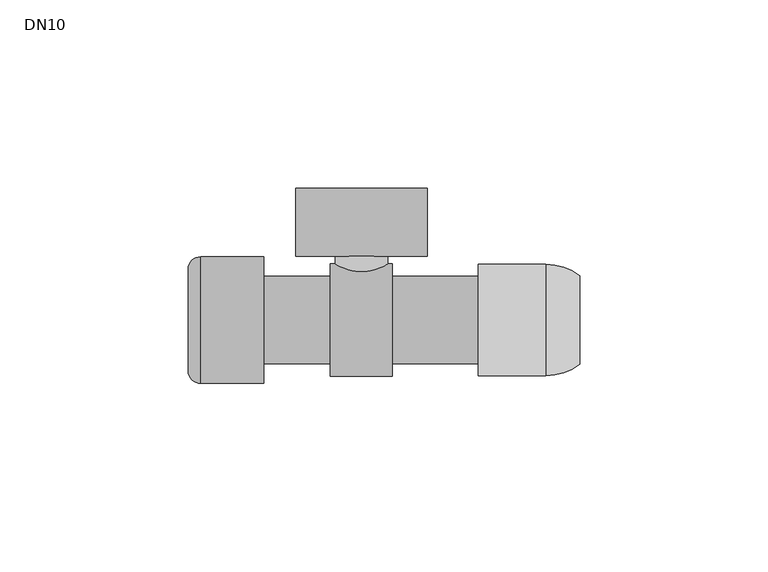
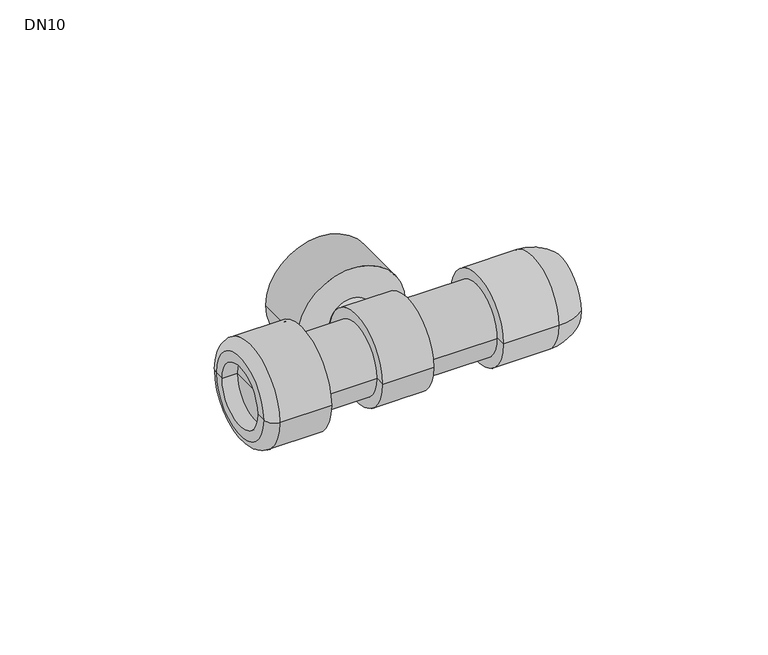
"""IFC4 building model written with IfcOpenShell, lengths in millimetres: valve geometry, Wavin_PipeAccessory_Hep2oStraightServiceValve : DN10."""

import ifcopenshell
import ifcopenshell.guid

model = None  # the IFC model being written
_history = None  # IfcOwnerHistory: only IFC2X3 demands one
_inside = {}  # id of a spatial element -> (the spatial element, [elements in it])
_under = {}  # id of a project, library or spatial element -> (it, [spatial elements below it])
_declared = {}  # id of a project -> (the project, [libraries it declares])
_typed = {}  # id of a type object -> (the type object, [elements of that type])
_made_of = {}  # id of a material, layer set ... -> (it, [elements and type objects made of it])


def new_model(schema):
    """Start an empty IFC model of exactly this schema.

    Asked for "IFC4X3", IfcOpenShell would pick the latest addendum, in which some entities
    have other attributes; the version numbers below select the first issue.
    IFC2X3 requires an IfcOwnerHistory on every rooted entity: one is made here for all.
    """
    global model, _history
    if schema == "IFC4X3":
        model = ifcopenshell.file(schema_version=(4, 3, 0, 0))
    else:
        model = ifcopenshell.file(schema=schema)
    _inside.clear()
    _under.clear()
    _declared.clear()
    _typed.clear()
    _made_of.clear()
    _history = None
    if model.schema == "IFC2X3":
        org = make("IfcOrganization", Name="unknown")
        user = make(
            "IfcPersonAndOrganization",
            ThePerson=make("IfcPerson", FamilyName="unknown"),
            TheOrganization=org,
        )
        app = make(
            "IfcApplication",
            ApplicationDeveloper=org,
            Version="unknown",
            ApplicationFullName="unknown",
            ApplicationIdentifier="unknown",
        )
        _history = make(
            "IfcOwnerHistory",
            OwningUser=user,
            OwningApplication=app,
            ChangeAction="ADDED",
            CreationDate=0,
        )
    return model


def make(cls, **values):
    """One entity of the class cls with the attributes given. An attribute that is None is left unset."""
    return model.create_entity(
        cls, **{name: value for name, value in values.items() if value is not None}
    )


def rooted(cls, **values):
    """An entity with a GlobalId (a new one), such as an element, a storey or a relation."""
    return make(cls, GlobalId=ifcopenshell.guid.new(), OwnerHistory=_history, **values)


def si_unit(unit_type, name, prefix=None):
    """IfcSIUnit, for example si_unit("LENGTHUNIT", "METRE", prefix="MILLI")."""
    return make("IfcSIUnit", UnitType=unit_type, Prefix=prefix, Name=name)


def assignment(units):
    """IfcUnitAssignment: the units of a project."""
    return None if units is None else make("IfcUnitAssignment", Units=units)


def point(xyz):
    """IfcCartesianPoint."""
    return None if xyz is None else make("IfcCartesianPoint", Coordinates=xyz)


def direction(xyz):
    """IfcDirection."""
    return None if xyz is None else make("IfcDirection", DirectionRatios=xyz)


def frame(location, z_axis=None, x_axis=None):
    """IfcAxis2Placement3D, a coordinate frame: its origin and axes. An axis left out is left unset."""
    return make(
        "IfcAxis2Placement3D",
        Location=point(location),
        Axis=direction(z_axis),
        RefDirection=direction(x_axis),
    )


def frame_2d(location, x_axis=None):
    """IfcAxis2Placement2D, a coordinate frame in the plane: its origin and x axis."""
    return make(
        "IfcAxis2Placement2D", Location=point(location), RefDirection=direction(x_axis)
    )


def origin():
    """The frame at (0, 0, 0) with its axes left unset."""
    return frame((0.0, 0.0, 0.0))


def origin_2d():
    """The frame at (0, 0) in the plane with its x axis left unset."""
    return frame_2d((0.0, 0.0))


def place(relative_to, where):
    """IfcLocalPlacement: puts the frame where relative to a parent placement (None: the world)."""
    return make(
        "IfcLocalPlacement", PlacementRelTo=relative_to, RelativePlacement=where
    )


def context(
    kind, dimensions, precision=None, world=None, true_north=None, identifier=None
):
    """IfcGeometricRepresentationContext, for example the 3D "Model" context."""
    return make(
        "IfcGeometricRepresentationContext",
        ContextIdentifier=identifier,
        ContextType=kind,
        CoordinateSpaceDimension=dimensions,
        Precision=precision,
        WorldCoordinateSystem=world,
        TrueNorth=true_north,
    )


def project(units=None, contexts=None):
    """IfcProject with its units and contexts."""
    return rooted(
        "IfcProject",
        Name="project",
        RepresentationContexts=contexts,
        UnitsInContext=assignment(units),
    )


def spatial(cls, under=None, at=None, **own):
    """A site, building, storey or space (cls), placed at a placement, below another one or the project."""
    s = rooted(cls, ObjectPlacement=at, **own)
    if under is not None:
        _under.setdefault(under.id(), (under, []))[1].append(s)
    return s


def polyline(points):
    """IfcPolyline through the points."""
    return make("IfcPolyline", Points=[point(p) for p in points])


def circle_curve(where, radius):
    """IfcCircle in the frame where."""
    return make("IfcCircle", Position=where, Radius=radius)


def ellipse_curve(where, semi_axis1, semi_axis2):
    """IfcEllipse in the frame where."""
    return make(
        "IfcEllipse", Position=where, SemiAxis1=semi_axis1, SemiAxis2=semi_axis2
    )


def trimmed(basis, trim1, trim2, sense, master):
    """IfcTrimmedCurve: the piece of a basis curve between two trims."""
    return make(
        "IfcTrimmedCurve",
        BasisCurve=basis,
        Trim1=trim1,
        Trim2=trim2,
        SenseAgreement=sense,
        MasterRepresentation=master,
    )


def segment(curve, same_sense, transition):
    """IfcCompositeCurveSegment."""
    return make(
        "IfcCompositeCurveSegment",
        Transition=transition,
        SameSense=same_sense,
        ParentCurve=curve,
    )


def composite_curve(segments, self_intersect=None):
    """IfcCompositeCurve: segments joined end to end."""
    return make("IfcCompositeCurve", Segments=segments, SelfIntersect=self_intersect)


def outline(outer, holes=None, kind="AREA"):
    """IfcArbitraryClosedProfileDef: a profile drawn as a closed curve; with holes, ...WithVoids."""
    if holes is None:
        return make("IfcArbitraryClosedProfileDef", ProfileType=kind, OuterCurve=outer)
    return make(
        "IfcArbitraryProfileDefWithVoids",
        ProfileType=kind,
        OuterCurve=outer,
        InnerCurves=holes,
    )


def extrude(swept, where, along, depth):
    """IfcExtrudedAreaSolid: the profile swept, set in the frame where, extruded along a direction by depth."""
    return make(
        "IfcExtrudedAreaSolid",
        SweptArea=swept,
        Position=where,
        ExtrudedDirection=direction(along),
        Depth=depth,
    )


def shape(context_of_items, identifier, shape_type, items):
    """IfcShapeRepresentation: the items that make up one representation, for example the "Body"."""
    return make(
        "IfcShapeRepresentation",
        ContextOfItems=context_of_items,
        RepresentationIdentifier=identifier,
        RepresentationType=shape_type,
        Items=items,
    )


def source(mapping_origin, context_of_items, identifier, shape_type, items):
    """IfcRepresentationMap: a shape defined once, which mapped items show again and again."""
    return make(
        "IfcRepresentationMap",
        MappingOrigin=mapping_origin,
        MappedRepresentation=shape(context_of_items, identifier, shape_type, items),
    )


def transform(
    local_origin,
    x_axis=None,
    y_axis=None,
    z_axis=None,
    scale=None,
    scale2=None,
    scale3=None,
    uniform=True,
):
    """IfcCartesianTransformationOperator3D, or its non-uniform kind. x_axis, y_axis, z_axis: its Axis1, 2, 3."""
    if uniform:
        return make(
            "IfcCartesianTransformationOperator3D",
            Axis1=direction(x_axis),
            Axis2=direction(y_axis),
            LocalOrigin=point(local_origin),
            Scale=scale,
            Axis3=direction(z_axis),
        )
    return make(
        "IfcCartesianTransformationOperator3DnonUniform",
        Axis1=direction(x_axis),
        Axis2=direction(y_axis),
        LocalOrigin=point(local_origin),
        Scale=scale,
        Axis3=direction(z_axis),
        Scale2=scale2,
        Scale3=scale3,
    )


def mapped(mapping_source, mapping_target):
    """IfcMappedItem: shows the shape of a source again, moved by a transform."""
    return make(
        "IfcMappedItem", MappingSource=mapping_source, MappingTarget=mapping_target
    )


def made_of(thing, what):
    """Note that an element or type object is made of a material, layer set ...; save() writes the relation."""
    if what is not None:
        _made_of.setdefault(what.id(), (what, []))[1].append(thing)
    return thing


def element(
    cls,
    number,
    at=None,
    inside=None,
    cuts=None,
    type_object=None,
    material=None,
    context=None,
    identifier="Body",
    shape_type=None,
    held_by="IfcProductDefinitionShape",
    body=None,
    shapes=None,
    **own,
):
    """One element of the class cls, such as IfcWall. Its Tag is "e" and its number.

    at: its placement. inside: the storey or other place that contains it. cuts: it is an
    opening in that element (IfcRelVoidsElement). A single representation is given by context,
    identifier, shape_type and body (its items); several are given by shapes. held_by: the class
    of the entity that holds the representations. save() writes the other relations.
    """
    e = rooted(cls, Tag="e%d" % number, ObjectPlacement=at, **own)
    if body is not None:
        shapes = [shape(context, identifier, shape_type, body)]
    if shapes is not None:
        e.Representation = make(held_by, Representations=shapes)
    if inside is not None:
        _inside.setdefault(inside.id(), (inside, []))[1].append(e)
    if cuts is not None:
        rooted(
            "IfcRelVoidsElement", RelatingBuildingElement=cuts, RelatedOpeningElement=e
        )
    if type_object is not None:
        _typed.setdefault(type_object.id(), (type_object, []))[1].append(e)
    return made_of(e, material)


def aggregate(whole, parts):
    """IfcRelAggregates: a whole, such as a stair, and the parts it consists of."""
    return rooted("IfcRelAggregates", RelatingObject=whole, RelatedObjects=parts)


def save(model, path):
    """Write the relations noted so far, then the file.

    IfcRelAggregates (storeys below a building ...), IfcRelContainedInSpatialStructure (elements
    in a storey), IfcRelDefinesByType, IfcRelAssociatesMaterial and IfcRelDeclares: one each for
    every whole, place, type object, material and project.
    """
    for whole, parts in _under.values():
        aggregate(whole, parts)
    for where, things in _inside.values():
        rooted(
            "IfcRelContainedInSpatialStructure",
            RelatedElements=things,
            RelatingStructure=where,
        )
    for kind, things in _typed.values():
        rooted("IfcRelDefinesByType", RelatedObjects=things, RelatingType=kind)
    for what, things in _made_of.values():
        rooted("IfcRelAssociatesMaterial", RelatedObjects=things, RelatingMaterial=what)
    for by, libraries in _declared.values():
        rooted("IfcRelDeclares", RelatingContext=by, RelatedDefinitions=libraries)
    model.write(path)


def plane_surface(at):
    """IfcPlane: the flat surface through the origin of the frame at, square to its z axis."""
    return make("IfcPlane", Position=at)


def cylinder_surface(at, radius):
    """IfcCylindricalSurface: all points at the distance radius from the z axis of the frame at."""
    return make("IfcCylindricalSurface", Position=at, Radius=radius)


def revolved_surface(curve, axis_point, axis_direction):
    """IfcSurfaceOfRevolution: the curve turned about the line through axis_point along axis_direction."""
    return make(
        "IfcSurfaceOfRevolution",
        SweptCurve=make("IfcArbitraryOpenProfileDef", ProfileType="CURVE", Curve=curve),
        AxisPosition=make("IfcAxis1Placement", Location=point(axis_point), Axis=direction(axis_direction)),
    )


def advanced_brep(points, edges, surfaces, faces):
    """IfcAdvancedBrep: a solid bounded by faces that lie on surfaces and meet in shared edges.

    An edge is (start, end): straight between two places in points (the first is 0);
    or (start, end, curve); or (start, end, curve, False) where it runs against its curve.
    A face is (place in surfaces, loops), or (place, loops, False) where it looks against
    its surface's normal. A loop lists edges by number (the first is 1), with a minus sign
    where the edge is run from its end to its start. The first loop is the outer one.
    """
    corners = [point(p) for p in points]
    vertices = [make("IfcVertexPoint", VertexGeometry=c) for c in corners]
    made = []
    for start, end, *more in edges:
        made.append(
            make(
                "IfcEdgeCurve",
                EdgeStart=vertices[start],
                EdgeEnd=vertices[end],
                EdgeGeometry=more[0] if more else make("IfcPolyline", Points=[corners[start], corners[end]]),
                SameSense=more[1] if len(more) > 1 else True,
            )
        )
    hull = []
    for where, loops, *sense in faces:
        bounds = []
        for j, loop in enumerate(loops):
            ring = [make("IfcOrientedEdge", EdgeElement=made[abs(k) - 1], Orientation=k > 0) for k in loop]
            bounds.append(
                make(
                    "IfcFaceOuterBound" if j == 0 else "IfcFaceBound",
                    Bound=make("IfcEdgeLoop", EdgeList=ring),
                    Orientation=True,
                )
            )
        hull.append(make("IfcAdvancedFace", Bounds=bounds, FaceSurface=surfaces[where], SameSense=sense[0] if sense else True))
    return make("IfcAdvancedBrep", Outer=make("IfcClosedShell", CfsFaces=hull))


def dn10_7873d2fb(model_context):
    return source(origin(), model_context, "Body", "SolidModel", [
        advanced_brep(
        [(31.0, 7.5, 0.0), (31.0, -7.5, 0.0), (58.0, -7.5, 0.0), (58.0, 7.5, 0.0), (31.0, 14.8, 0.0), (31.0, -14.8, 0.0), (49.0, 14.8, 0.0), (49.0, -14.8, 0.0), (58.0, 11.7490425, 0.0), (58.0, -11.7490425, 0.0)],
        [
            (0, 1, circle_curve(frame((31.0, 0.0, 0.0), z_axis=(-1.0, 0.0, 0.0), x_axis=(0.0, -1.0000000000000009, 0.0)), 7.5)),
            (1, 2),
            (2, 3, circle_curve(frame((58.0, 0.0, 0.0), z_axis=(1.0, 0.0, 0.0), x_axis=(0.0, -1.0000000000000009, 0.0)), 7.5)),
            (3, 0),
            (1, 0, circle_curve(frame((31.0, 0.0, 0.0), z_axis=(-1.0, 0.0, 0.0), x_axis=(0.0, -1.0000000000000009, 0.0)), 7.5)),
            (3, 2, circle_curve(frame((58.0, 0.0, 0.0), z_axis=(1.0, 0.0, 0.0), x_axis=(0.0, -1.0000000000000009, 0.0)), 7.5)),
            (4, 5, circle_curve(frame((31.0, 0.0, 0.0), z_axis=(-1.0, 0.0, 0.0), x_axis=(0.0, -1.0000000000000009, 0.0)), 14.8)),
            (5, 1),
            (0, 4),
            (5, 4, circle_curve(frame((31.0, 0.0, 0.0), z_axis=(-1.0, 0.0, 0.0), x_axis=(0.0, -1.0000000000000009, 0.0)), 14.8)),
            (6, 7, circle_curve(frame((49.0, 0.0, 0.0), z_axis=(-1.0, 0.0, 0.0), x_axis=(0.0, -1.0000000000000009, 0.0)), 14.8)),
            (7, 5),
            (4, 6),
            (7, 6, circle_curve(frame((49.0, 0.0, 0.0), z_axis=(-1.0, 0.0, 0.0), x_axis=(0.0, -1.0000000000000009, 0.0)), 14.8)),
            (8, 9, circle_curve(frame((58.0, 0.0, 0.0), z_axis=(-1.0, 0.0, 0.0), x_axis=(0.0, -1.0000000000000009, 0.0)), 11.7490425)),
            (9, 7, circle_curve(frame((49.0, 0.0, 0.0), z_axis=(0.0, 0.0, -1.0000000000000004), x_axis=(-1.0000000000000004, 0.0, 0.0)), 14.8)),
            (6, 8, circle_curve(frame((49.0, 0.0, 0.0), z_axis=(0.0, 0.0, -1.0000000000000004), x_axis=(-1.0000000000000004, 0.0, 0.0)), 14.8)),
            (9, 8, circle_curve(frame((58.0, 0.0, 0.0), z_axis=(-1.0, 0.0, 0.0), x_axis=(0.0, -1.0000000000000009, 0.0)), 11.7490425)),
            (2, 9),
            (8, 3),
        ],
        [
            revolved_surface(polyline([(58.00000000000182, -7.500000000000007, 0.0), (31.00000000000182, -7.500000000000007, 0.0)]), (-1969.0, 0.0, 0.0), (1.0000000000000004, 0.0, 0.0)),
            plane_surface(frame((31.0, 0.0, 0.0), z_axis=(-1.0, 0.0, 0.0), x_axis=(0.0, -1.0, 0.0))),
            cylinder_surface(frame((-1969.0, 0.0, 0.0), z_axis=(1.0000000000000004, 0.0, 0.0), x_axis=(0.0, -1.0000000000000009, 0.0)), 14.8),
            revolved_surface(trimmed(ellipse_curve(frame((49.0, 0.0, 0.0), z_axis=(0.0, 0.0, 1.0000000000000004), x_axis=(-1.0000000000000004, 0.0, 0.0)), 14.8, 14.8), [point((49.0, -14.8, 0.0))], [point((58.0, -11.7490425, 0.0))], True, "CARTESIAN"), (-1969.0, 0.0, 0.0), (1.0000000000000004, 0.0, 0.0)),
            plane_surface(frame((58.0, 0.0, 0.0), z_axis=(1.0, 0.0, 0.0), x_axis=(0.0, -1.0, 0.0))),
        ],
        [
            (0, [[1, 2, 3, 4]]),
            (0, [[5, -4, 6, -2]]),
            (1, [[7, 8, -1, 9]]),
            (1, [[10, -9, -5, -8]]),
            (2, [[11, 12, -7, 13]]),
            (2, [[14, -13, -10, -12]]),
            (3, [[15, 16, -11, 17]]),
            (3, [[18, -17, -14, -16]]),
            (4, [[-3, 19, -15, 20]]),
            (4, [[-6, -20, -18, -19]]),
        ],
    ),
        extrude(outline(composite_curve([segment(trimmed(circle_curve(origin_2d(), 7.0), [point((0.0, -7.0))], [point((0.0, 7.0))], False, "CARTESIAN"), True, "CONTINUOUS"), segment(trimmed(circle_curve(origin_2d(), 7.0), [point((0.0, 7.0))], [point((0.0, -7.0))], False, "CARTESIAN"), True, "CONTINUOUS")], self_intersect=False)), frame((0.0, 0.0, 0.0), z_axis=(0.0, 1.0, 0.0), x_axis=(0.0, 0.0, 1.0)), (0.0, 0.0, 1.0), 35.0),
        extrude(outline(composite_curve([segment(trimmed(circle_curve(origin_2d(), 17.5), [point((0.0, -17.5))], [point((0.0, 17.5))], False, "CARTESIAN"), True, "CONTINUOUS"), segment(trimmed(circle_curve(origin_2d(), 17.5), [point((0.0, 17.5))], [point((0.0, -17.5))], False, "CARTESIAN"), True, "CONTINUOUS")], self_intersect=False)), frame((0.0, 17.0, 0.0), z_axis=(0.0, 1.0, 0.0), x_axis=(0.0, 0.0, 1.0)), (0.0, 0.0, 1.0), 18.0),
        advanced_brep(
        [(-41.0, -10.1342795, 0.0), (-41.0, 10.1342795, 0.0), (-46.0, 10.1342795, 0.0), (-46.0, -10.1342795, 0.0), (-41.0, -16.0, 0.0), (-41.0, 16.0, 0.0), (-26.0, -16.0, 0.0), (-26.0, 16.0, 0.0), (-26.0, -16.8, 0.0), (-26.0, 16.8, 0.0), (-42.6901893, -16.8, 0.0), (-42.6901893, 16.8, 0.0), (-46.0, -13.4901893, 0.0), (-46.0, 13.4901893, 0.0)],
        [
            (0, 1, circle_curve(frame((-41.0, 0.0, 0.0), z_axis=(1.0, 0.0, 0.0), x_axis=(0.0, 1.0, 0.0)), 10.1342795)),
            (1, 2),
            (2, 3, circle_curve(frame((-46.0, 0.0, 0.0), z_axis=(-1.0, 0.0, 0.0), x_axis=(0.0, 1.0, 0.0)), 10.1342795)),
            (3, 0),
            (1, 0, circle_curve(frame((-41.0, 0.0, 0.0), z_axis=(1.0, 0.0, 0.0), x_axis=(0.0, 1.0, 0.0)), 10.1342795)),
            (3, 2, circle_curve(frame((-46.0, 0.0, 0.0), z_axis=(-1.0, 0.0, 0.0), x_axis=(0.0, 1.0, 0.0)), 10.1342795)),
            (4, 5, circle_curve(frame((-41.0, 0.0, 0.0), z_axis=(1.0, 0.0, 0.0), x_axis=(0.0, 1.0, 0.0)), 16.0)),
            (5, 1),
            (0, 4),
            (5, 4, circle_curve(frame((-41.0, 0.0, 0.0), z_axis=(1.0, 0.0, 0.0), x_axis=(0.0, 1.0, 0.0)), 16.0)),
            (6, 7, circle_curve(frame((-26.0, 0.0, 0.0), z_axis=(1.0, 0.0, 0.0), x_axis=(0.0, 1.0, 0.0)), 16.0)),
            (7, 5),
            (4, 6),
            (7, 6, circle_curve(frame((-26.0, 0.0, 0.0), z_axis=(1.0, 0.0, 0.0), x_axis=(0.0, 1.0, 0.0)), 16.0)),
            (8, 9, circle_curve(frame((-26.0, 0.0, 0.0), z_axis=(1.0, 0.0, 0.0), x_axis=(0.0, 1.0, 0.0)), 16.8)),
            (9, 7),
            (6, 8),
            (9, 8, circle_curve(frame((-26.0, 0.0, 0.0), z_axis=(1.0, 0.0, 0.0), x_axis=(0.0, 1.0, 0.0)), 16.8)),
            (10, 11, circle_curve(frame((-42.6901893, 0.0, 0.0), z_axis=(1.0, 0.0, 0.0), x_axis=(0.0, 1.0, 0.0)), 16.8)),
            (11, 9),
            (8, 10),
            (11, 10, circle_curve(frame((-42.6901893, 0.0, 0.0), z_axis=(1.0, 0.0, 0.0), x_axis=(0.0, 1.0, 0.0)), 16.8)),
            (12, 13, circle_curve(frame((-46.0, 0.0, 0.0), z_axis=(1.0, 0.0, 0.0), x_axis=(0.0, 1.0, 0.0)), 13.4901893)),
            (13, 11, circle_curve(frame((-42.6901893, 13.4901893, 0.0), z_axis=(0.0, 0.0, -1.0), x_axis=(0.0, 1.0, 0.0)), 3.3098107)),
            (10, 12, circle_curve(frame((-42.6901893, -13.4901893, 0.0), z_axis=(0.0, 0.0, -1.0), x_axis=(0.0, -1.0, 0.0)), 3.3098107)),
            (13, 12, circle_curve(frame((-46.0, 0.0, 0.0), z_axis=(1.0, 0.0, 0.0), x_axis=(0.0, 1.0, 0.0)), 13.4901893)),
            (2, 13),
            (12, 3),
        ],
        [
            revolved_surface(polyline([(-46.0, 10.1342795, 0.0), (-41.0, 10.1342795, 0.0)]), (2000.0, 0.0, 0.0), (-1.0, 0.0, 0.0)),
            plane_surface(frame((-41.0, 0.0, 0.0), z_axis=(1.0, 0.0, 0.0), x_axis=(0.0, 1.0, 0.0))),
            revolved_surface(polyline([(-41.0, 16.0, 0.0), (-26.0, 16.0, 0.0)]), (2000.0, 0.0, 0.0), (-1.0, 0.0, 0.0)),
            plane_surface(frame((-26.0, 0.0, 0.0), z_axis=(1.0, 0.0, 0.0), x_axis=(0.0, 1.0, 0.0))),
            cylinder_surface(frame((2000.0, 0.0, 0.0), z_axis=(-1.0, 0.0, 0.0), x_axis=(0.0, 1.0, 0.0)), 16.8),
            revolved_surface(trimmed(ellipse_curve(frame((-42.6901893, 13.4901893, 0.0), z_axis=(0.0, 0.0, 1.0), x_axis=(0.0, 1.0, 0.0)), 3.3098107, 3.3098107), [point((-42.6901893, 16.8, 0.0))], [point((-46.0, 13.4901893, 0.0))], True, "CARTESIAN"), (2000.0, 0.0, 0.0), (-1.0, 0.0, 0.0)),
            plane_surface(frame((-46.0, 0.0, 0.0), z_axis=(-1.0, 0.0, 0.0), x_axis=(0.0, 1.0, 0.0))),
        ],
        [
            (0, [[1, 2, 3, 4]]),
            (0, [[5, -4, 6, -2]]),
            (1, [[7, 8, -1, 9]]),
            (1, [[10, -9, -5, -8]]),
            (2, [[11, 12, -7, 13]]),
            (2, [[14, -13, -10, -12]]),
            (3, [[15, 16, -11, 17]]),
            (3, [[18, -17, -14, -16]]),
            (4, [[19, 20, -15, 21]]),
            (4, [[22, -21, -18, -20]]),
            (5, [[23, 24, -19, 25]]),
            (5, [[26, -25, -22, -24]]),
            (6, [[-3, 27, -23, 28]]),
            (6, [[-6, -28, -26, -27]]),
        ],
    ),
        advanced_brep(
        [(-41.0, 0.0, 0.0), (-41.0, 11.625, 0.0), (-41.0, -11.625, 0.0), (31.0, -11.625, 0.0), (31.0, 11.625, 0.0), (31.0, 0.0, 0.0), (8.2320085, -11.625, 0.0), (8.2320085, 11.625, 0.0), (8.2320085, -14.925, 0.0), (8.2320085, 14.925, 0.0), (-8.2320085, -14.925, 0.0), (-8.2320085, 14.925, 0.0), (-8.2320085, -11.625, 0.0), (-8.2320085, 11.625, 0.0)],
        [
            (0, 1),
            (1, 2, circle_curve(frame((-41.0, 0.0, 0.0), z_axis=(-1.0, 0.0, 0.0), x_axis=(0.0, 1.0, 0.0)), 11.625)),
            (2, 0),
            (2, 1, circle_curve(frame((-41.0, 0.0, 0.0), z_axis=(-1.0, 0.0, 0.0), x_axis=(0.0, 1.0, 0.0)), 11.625)),
            (3, 4, circle_curve(frame((31.0, 0.0, 0.0), z_axis=(1.0, 0.0, 0.0), x_axis=(0.0, 1.0, 0.0)), 11.625)),
            (4, 5),
            (5, 3),
            (4, 3, circle_curve(frame((31.0, 0.0, 0.0), z_axis=(1.0, 0.0, 0.0), x_axis=(0.0, 1.0, 0.0)), 11.625)),
            (6, 7, circle_curve(frame((8.2320085, 0.0, 0.0), z_axis=(1.0, 0.0, 0.0), x_axis=(0.0, 1.0, 0.0)), 11.625)),
            (7, 4),
            (3, 6),
            (7, 6, circle_curve(frame((8.2320085, 0.0, 0.0), z_axis=(1.0, 0.0, 0.0), x_axis=(0.0, 1.0, 0.0)), 11.625)),
            (8, 9, circle_curve(frame((8.2320085, 0.0, 0.0), z_axis=(1.0, 0.0, 0.0), x_axis=(0.0, 1.0, 0.0)), 14.925)),
            (9, 7),
            (6, 8),
            (9, 8, circle_curve(frame((8.2320085, 0.0, 0.0), z_axis=(1.0, 0.0, 0.0), x_axis=(0.0, 1.0, 0.0)), 14.925)),
            (10, 11, circle_curve(frame((-8.2320085, 0.0, 0.0), z_axis=(1.0, 0.0, 0.0), x_axis=(0.0, 1.0, 0.0)), 14.925)),
            (11, 9),
            (8, 10),
            (11, 10, circle_curve(frame((-8.2320085, 0.0, 0.0), z_axis=(1.0, 0.0, 0.0), x_axis=(0.0, 1.0, 0.0)), 14.925)),
            (12, 13, circle_curve(frame((-8.2320085, 0.0, 0.0), z_axis=(1.0, 0.0, 0.0), x_axis=(0.0, 1.0, 0.0)), 11.625)),
            (13, 11),
            (10, 12),
            (13, 12, circle_curve(frame((-8.2320085, 0.0, 0.0), z_axis=(1.0, 0.0, 0.0), x_axis=(0.0, 1.0, 0.0)), 11.625)),
            (1, 13),
            (12, 2),
        ],
        [
            plane_surface(frame((-41.0, 0.0, 0.0), z_axis=(-1.0, 0.0, 0.0), x_axis=(0.0, 1.0, 0.0))),
            plane_surface(frame((31.0, 0.0, 0.0), z_axis=(1.0, 0.0, 0.0), x_axis=(0.0, 1.0, 0.0))),
            cylinder_surface(frame((-41.0, 0.0, 0.0), z_axis=(-1.0, 0.0, 0.0), x_axis=(0.0, 1.0, 0.0)), 11.625),
            plane_surface(frame((8.2320085, 0.0, 0.0), z_axis=(1.0, 0.0, 0.0), x_axis=(0.0, 1.0, 0.0))),
            cylinder_surface(frame((-41.0, 0.0, 0.0), z_axis=(-1.0, 0.0, 0.0), x_axis=(0.0, 1.0, 0.0)), 14.925),
            plane_surface(frame((-8.2320085, 0.0, 0.0), z_axis=(-1.0, 0.0, 0.0), x_axis=(0.0, 1.0, 0.0))),
        ],
        [
            (0, [[1, 2, 3]]),
            (0, [[-3, 4, -1]]),
            (1, [[5, 6, 7]]),
            (1, [[8, -7, -6]]),
            (2, [[9, 10, -5, 11]]),
            (2, [[12, -11, -8, -10]]),
            (3, [[13, 14, -9, 15]]),
            (3, [[16, -15, -12, -14]]),
            (4, [[17, 18, -13, 19]]),
            (4, [[20, -19, -16, -18]]),
            (5, [[21, 22, -17, 23]]),
            (5, [[24, -23, -20, -22]]),
            (2, [[-2, 25, -21, 26]]),
            (2, [[-4, -26, -24, -25]]),
        ],
    ),
    ])


if __name__ == "__main__":
    model = new_model("IFC4")
    model_context = context("Model", 3, world=origin())
    ifc_project = project(units=[si_unit("LENGTHUNIT", "METRE", prefix="MILLI")], contexts=[model_context])
    site = spatial("IfcSite", under=ifc_project)
    building = spatial("IfcBuilding", under=site)
    placement = place(None, origin())
    dn10_shape = dn10_7873d2fb(model_context)
    element("IfcValve", 1, ObjectType="Wavin_PipeAccessory_Hep2oStraightServiceValve : DN10", at=placement, inside=building, context=model_context, shape_type="MappedRepresentation", body=[
        mapped(dn10_shape, transform((0.0, 0.0, 0.0), x_axis=(1.0, 0.0, 0.0), y_axis=(0.0, 1.0, 0.0), z_axis=(0.0, 0.0, 1.0))),
    ])
    save(model, "model.ifc")
